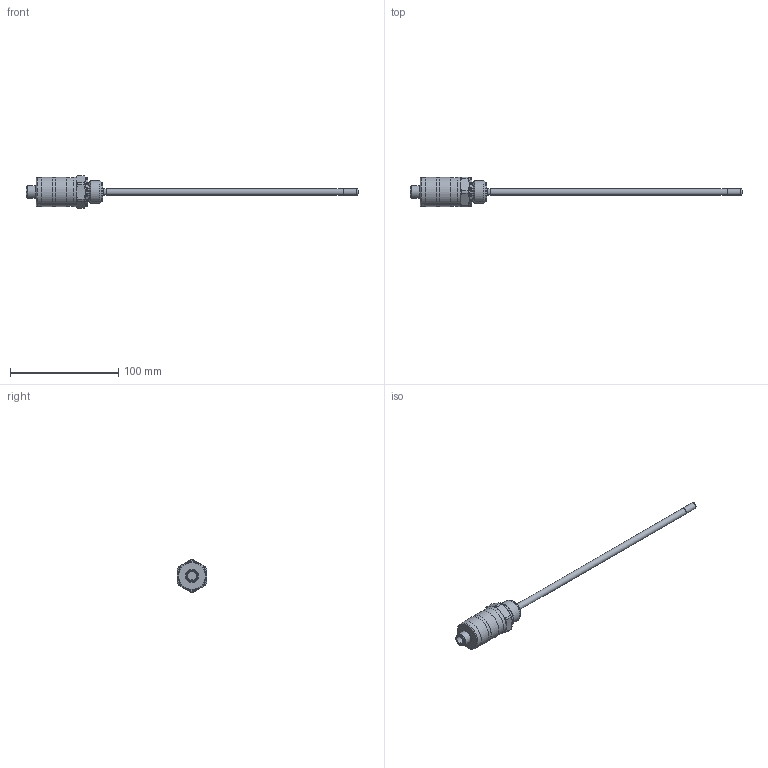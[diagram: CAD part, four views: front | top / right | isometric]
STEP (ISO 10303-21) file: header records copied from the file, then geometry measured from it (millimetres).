
FILE_DESCRIPTION( ( 'STEP AP203' ), ' ' );
FILE_NAME( 'p:/temp/worker_8937/5692_5428/app_49_02017032309503923550210192d056f_000000_00_00_000000/format_1/TK7460.stp', '2017-03-23T08:50:40', ( '' ), ( '' ), ' ', 'PARTsolutions', ' ' );
FILE_SCHEMA( ( 'CONFIG_CONTROL_DESIGN' ) );
Length unit declared in the file: millimetre
Products named in the file (1): _TK7460
Bounding box: 307 x 27 x 29.99 mm (x, y, z)
Volume: 38737.7 mm3; surface area: 11308.6 mm2
Topology: 1 solids, 1 shells, 77 faces, 161 edges, 99 vertices
Faces by surface type: plane 30, cylinder 24, cone 16, torus 6, bspline 1
Full cylindrical faces by diameter (mm): 5.95 x2, 6 x1, 8.4 x1, 10.5 x1, 11.3 x1, 12 x1, 18.1 x1, 18.3 x1, 18.4 x1, 20.955 x1, 24 x1, 26 x1, 26.8 x1, 26.86 x1, 26.87 x1, 27 x1
Entity records: 1981 total; most frequent: CARTESIAN_POINT 423, DIRECTION 334, ORIENTED_EDGE 248, AXIS2_PLACEMENT_3D 151, EDGE_LOOP 124, EDGE_CURVE 124, FACE_OUTER_BOUND 101, VERTEX_POINT 96
